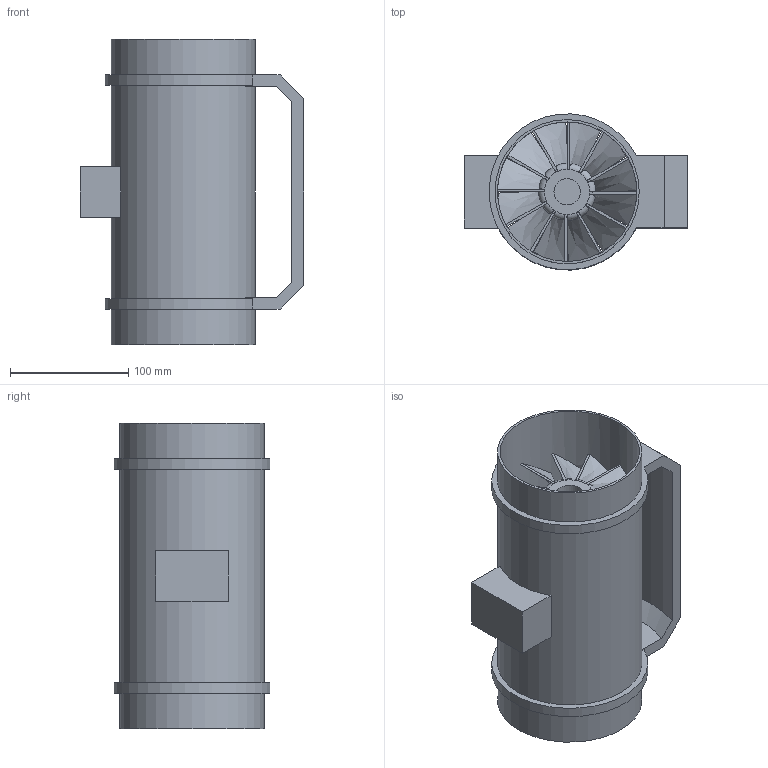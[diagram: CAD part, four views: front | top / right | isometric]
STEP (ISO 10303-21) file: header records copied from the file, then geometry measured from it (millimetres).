
FILE_DESCRIPTION(/* description */ (''),/* implementation_level */ '2;1');
FILE_NAME(/* name */ 'Z:\Output\MV_EC_125-06032-002.stp',/* time_stamp */ '2017-07-19T18:02:35+02:00',/* author */ ('engineering1'),/* organization */ (''),/* preprocessor_version */ 'ST-DEVELOPER v16.5',/* originating_system */ 'Autodesk Inventor 2017',/* authorisation */ '');
FILE_SCHEMA (('AUTOMOTIVE_DESIGN { 1 0 10303 214 3 1 1 }'));
Length unit declared in the file: millimetre
Products named in the file (1): MV-1USER
Bounding box: 189 x 131.76 x 258 mm (x, y, z)
Volume: 1269702.1 mm3; surface area: 349877 mm2
Topology: 1 solids, 1 shells, 285 faces, 725 edges, 470 vertices
Faces by surface type: plane 222, bspline 36, torus 13, cylinder 12, cone 2
Full cylindrical faces by diameter (mm): 22.286 x1, 36.286 x1, 48.286 x1, 82 x1, 118 x1, 122 x3
Entity records: 9519 total; most frequent: CARTESIAN_POINT 2489, ORIENTED_EDGE 1420, DIRECTION 1278, EDGE_CURVE 710, VERTEX_POINT 466, LINE 464, VECTOR 464, AXIS2_PLACEMENT_3D 407
